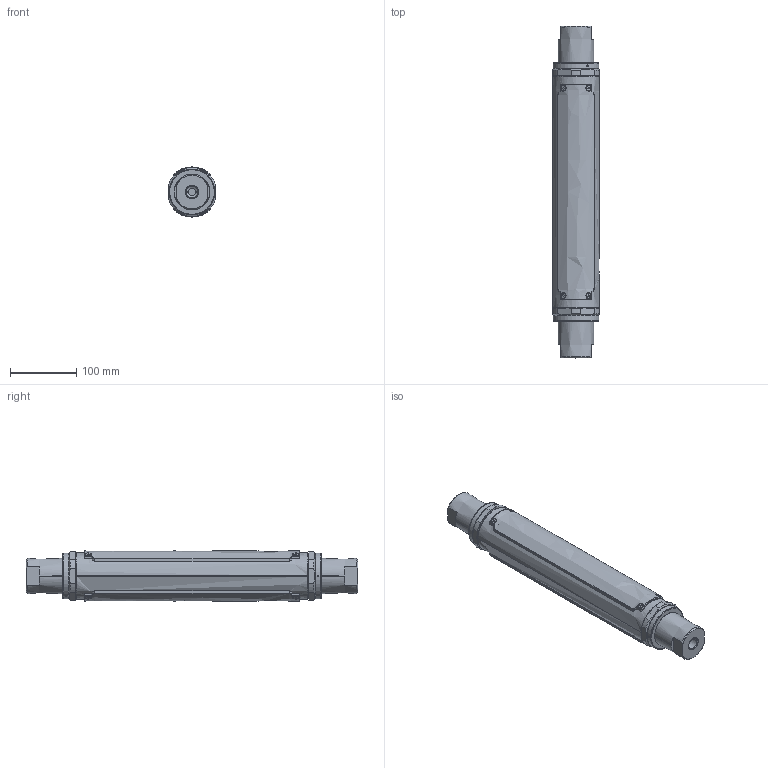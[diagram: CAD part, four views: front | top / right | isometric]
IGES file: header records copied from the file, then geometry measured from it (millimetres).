
Start section: SolidWorks IGES file using analytic representation for surfaces
Global section: file name: G:\Engineering\CAD MODELS FOR SALES\CAD MODEL STORAGE\GT1600\CUSTOMER FILES\IGES\1614-KF-2-AA-0-0.IGS; native system: SolidWorks 2020; preprocessor: SolidWorks 2020; author: CRaksin; date: 221020.153601; units: inch
Bounding box: 70 x 500 x 75.5 mm (x, y, z)
Surface area: 325283.3 mm2 (no closed solid volume)
Topology: 0 solids, 0 shells, 1123 faces, 14500 edges, 14500 vertices
Faces by surface type: bspline 730, revolution 393
